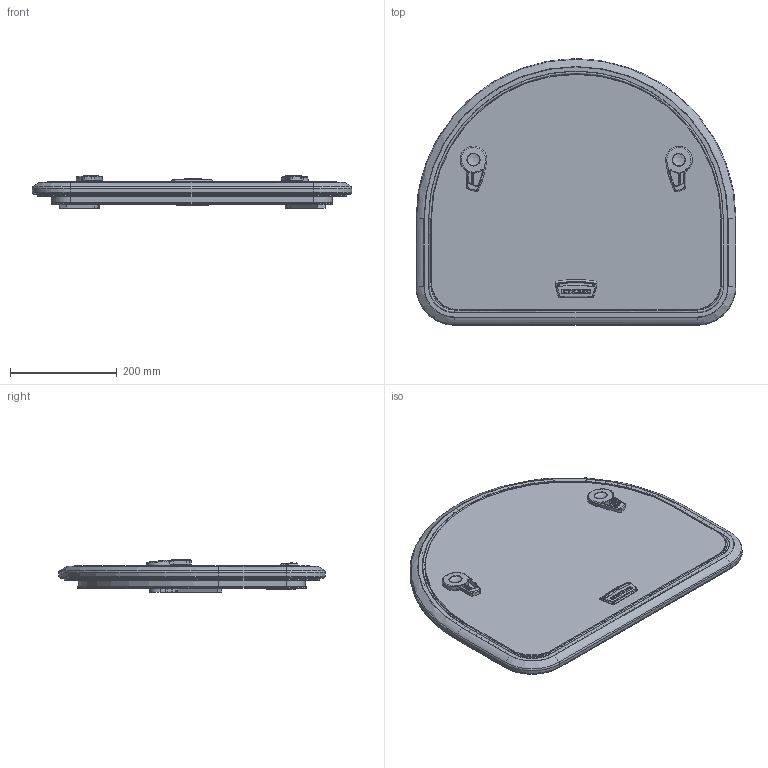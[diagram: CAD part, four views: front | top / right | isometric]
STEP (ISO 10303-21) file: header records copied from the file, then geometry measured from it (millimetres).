
FILE_DESCRIPTION((''),'2;1');
FILE_NAME('LEWMAR-HATCH-LOWPRO-64_ASM','2008-02-05T',('skennedy'),(''),'PRO/ENGINEER BY PARAMETRIC TECHNOLOGY CORPORATION, 2007030','PRO/ENGINEER BY PARAMETRIC TECHNOLOGY CORPORATION, 2007030','');
FILE_SCHEMA(('CONFIG_CONTROL_DESIGN'));
Length unit declared in the file: millimetre
Products named in the file (6): FRAME_64; 30067306; HANDLE_LP_RHS; HANDLE_LP_LHS; HINGE_LEVER_LP; LEWMAR-HATCH-LOWPRO-64_ASM
Assembly tree (5 placements, depth 2):
  LEWMAR-HATCH-LOWPRO-64_ASM
    FRAME_64
    30067306
    HANDLE_LP_RHS
    HANDLE_LP_LHS
    HINGE_LEVER_LP
Bounding box: 600 x 500 x 61.17 mm (x, y, z)
Volume: 3724855.5 mm3; surface area: 866627 mm2
Topology: 5 solids, 5 shells, 806 faces, 2032 edges, 1252 vertices
Faces by surface type: bspline 294, plane 279, cylinder 124, cone 38, torus 34, extrusion 23, sphere 14
Entity records: 36234 total; most frequent: CARTESIAN_POINT 18914, ORIENTED_EDGE 4040, DIRECTION 2747, EDGE_CURVE 2020, VERTEX_POINT 1252, AXIS2_PLACEMENT_3D 966, EDGE_LOOP 864, VECTOR 815
